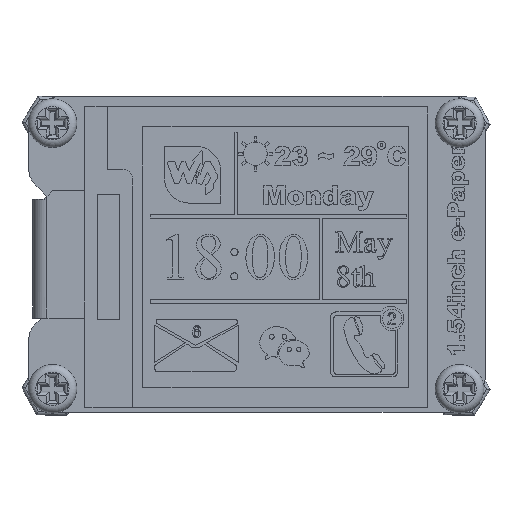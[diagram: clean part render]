
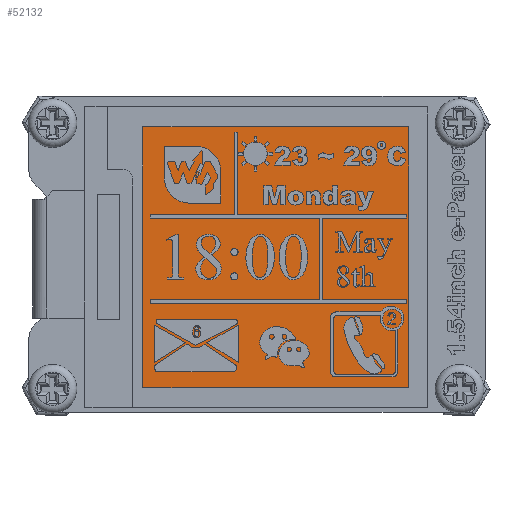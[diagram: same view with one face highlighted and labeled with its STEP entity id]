
A CAD part, top view. The second image highlights one B-rep face of the part: STEP entity #52132.
In plain terms, the highlighted planar face has unit normal (0, 0, 1).
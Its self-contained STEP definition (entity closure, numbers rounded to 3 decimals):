
#1685=LINE('',#93222,#8088);
#1687=LINE('',#93226,#8090);
#1689=LINE('',#93230,#8092);
#1691=LINE('',#93234,#8094);
#8088=VECTOR('',#77668,1000.);
#8090=VECTOR('',#77672,1000.);
#8092=VECTOR('',#77676,1000.);
#8094=VECTOR('',#77680,1000.);
#13994=PLANE('',#73285);
#18065=ORIENTED_EDGE('',*,*,#32301,.F.);
#18066=ORIENTED_EDGE('',*,*,#32307,.F.);
#18067=ORIENTED_EDGE('',*,*,#32305,.F.);
#18068=ORIENTED_EDGE('',*,*,#32303,.F.);
#32301=EDGE_CURVE('',#39586,#39587,#1685,.T.);
#32303=EDGE_CURVE('',#39587,#39588,#1687,.T.);
#32305=EDGE_CURVE('',#39588,#39589,#1689,.T.);
#32307=EDGE_CURVE('',#39589,#39586,#1691,.T.);
#39586=VERTEX_POINT('',#93221);
#39587=VERTEX_POINT('',#93223);
#39588=VERTEX_POINT('',#93227);
#39589=VERTEX_POINT('',#93231);
#45225=EDGE_LOOP('',(#18065,#18066,#18067,#18068));
#48560=FACE_BOUND('',#45225,.T.);
#52132=ADVANCED_FACE('',(#48560),#13994,.F.);
#73285=AXIS2_PLACEMENT_3D('',#93235,#77681,#77682);
#77668=DIRECTION('',(0.,1.,0.));
#77672=DIRECTION('',(1.,0.,0.));
#77676=DIRECTION('',(0.,-1.,0.));
#77680=DIRECTION('',(-1.,0.,0.));
#77681=DIRECTION('',(0.,0.,-1.));
#77682=DIRECTION('',(-1.,0.,0.));
#93221=CARTESIAN_POINT('',(-12.014,-13.805,1.013));
#93222=CARTESIAN_POINT('',(-12.014,-13.805,1.013));
#93223=CARTESIAN_POINT('',(-12.014,13.805,1.013));
#93226=CARTESIAN_POINT('',(-12.014,13.805,1.013));
#93227=CARTESIAN_POINT('',(16.154,13.805,1.013));
#93230=CARTESIAN_POINT('',(16.154,13.805,1.013));
#93231=CARTESIAN_POINT('',(16.154,-13.805,1.013));
#93234=CARTESIAN_POINT('',(16.154,-13.805,1.013));
#93235=CARTESIAN_POINT('',(0.,0.,1.013));
